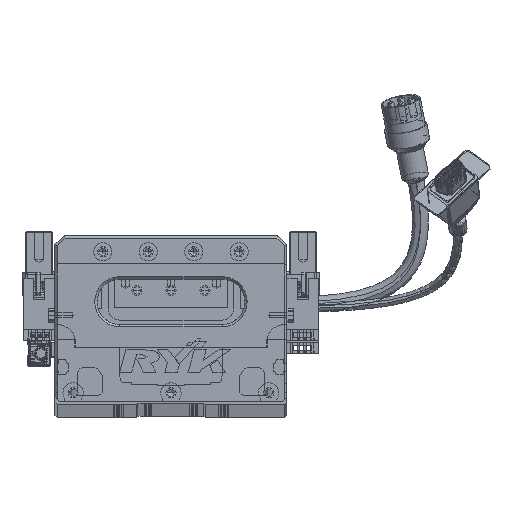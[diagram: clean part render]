
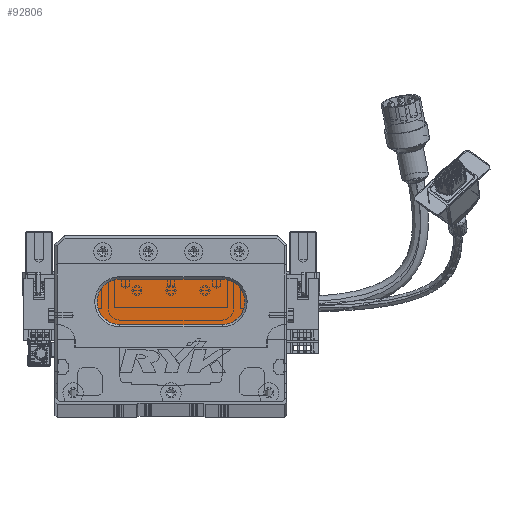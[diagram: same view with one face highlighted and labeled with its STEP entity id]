
A CAD part, top view. The second image highlights one B-rep face of the part: STEP entity #92806.
In plain terms, the highlighted planar face has unit normal (0, 0, 1) as drawn and (0, 0, -1) by its records, which use the part's own axes.
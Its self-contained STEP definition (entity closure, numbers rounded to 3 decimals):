
#870 = EDGE_CURVE ( 'NONE', #12849, #24966, #27491, .T. ) ;
#1148 = ORIENTED_EDGE ( 'NONE', *, *, #48535, .T. ) ;
#5061 = CIRCLE ( 'NONE', #24532, 10. ) ;
#5185 = CARTESIAN_POINT ( 'NONE',  ( 73.5, 54., 13. ) ) ;
#8632 = DIRECTION ( 'NONE',  ( 0., 0., -1. ) ) ;
#9249 = CARTESIAN_POINT ( 'NONE',  ( 73.5, 44., 13. ) ) ;
#9358 = ORIENTED_EDGE ( 'NONE', *, *, #18719, .T. ) ;
#9816 = LINE ( 'NONE', #83680, #82687 ) ;
#11534 = DIRECTION ( 'NONE',  ( 0., 0., -1. ) ) ;
#12849 = VERTEX_POINT ( 'NONE', #62135 ) ;
#13891 = CARTESIAN_POINT ( 'NONE',  ( 73.5, 54., 13. ) ) ;
#15362 = PLANE ( 'NONE',  #16156 ) ;
#15558 = FACE_OUTER_BOUND ( 'NONE', #66288, .T. ) ;
#16156 = AXIS2_PLACEMENT_3D ( 'NONE', #9249, #38278, #59943 ) ;
#17231 = VERTEX_POINT ( 'NONE', #20407 ) ;
#18719 = EDGE_CURVE ( 'NONE', #17231, #89936, #5061, .T. ) ;
#18867 = DIRECTION ( 'NONE',  ( -1., 0., 0. ) ) ;
#20407 = CARTESIAN_POINT ( 'NONE',  ( 28.5, 34., 13. ) ) ;
#22767 = CARTESIAN_POINT ( 'NONE',  ( 18.5, 44., 13. ) ) ;
#23958 = AXIS2_PLACEMENT_3D ( 'NONE', #33223, #11534, #18867 ) ;
#24532 = AXIS2_PLACEMENT_3D ( 'NONE', #38186, #89051, #60164 ) ;
#24966 = VERTEX_POINT ( 'NONE', #13891 ) ;
#27491 = LINE ( 'NONE', #5185, #73031 ) ;
#33223 = CARTESIAN_POINT ( 'NONE',  ( 73.5, 44., 13. ) ) ;
#34404 = EDGE_CURVE ( 'NONE', #89936, #12849, #44026, .T. ) ;
#38186 = CARTESIAN_POINT ( 'NONE',  ( 28.5, 44., 13. ) ) ;
#38278 = DIRECTION ( 'NONE',  ( 0., 0., -1. ) ) ;
#40428 = CIRCLE ( 'NONE', #23958, 10. ) ;
#41412 = EDGE_CURVE ( 'NONE', #82454, #17231, #9816, .T. ) ;
#44026 = CIRCLE ( 'NONE', #78620, 10. ) ;
#44027 = DIRECTION ( 'NONE',  ( -1., 0., 0. ) ) ;
#44982 = ORIENTED_EDGE ( 'NONE', *, *, #41412, .T. ) ;
#48535 = EDGE_CURVE ( 'NONE', #24966, #82454, #40428, .T. ) ;
#56172 = DIRECTION ( 'NONE',  ( 1., 0., 0. ) ) ;
#59943 = DIRECTION ( 'NONE',  ( -1., 0., 0. ) ) ;
#60081 = ORIENTED_EDGE ( 'NONE', *, *, #870, .T. ) ;
#60164 = DIRECTION ( 'NONE',  ( -1., 0., 0. ) ) ;
#62135 = CARTESIAN_POINT ( 'NONE',  ( 28.5, 54., 13. ) ) ;
#63687 = ORIENTED_EDGE ( 'NONE', *, *, #34404, .T. ) ;
#66288 = EDGE_LOOP ( 'NONE', ( #1148, #44982, #9358, #63687, #60081 ) ) ;
#66575 = CARTESIAN_POINT ( 'NONE',  ( 28.5, 44., 13. ) ) ;
#71360 = CARTESIAN_POINT ( 'NONE',  ( 73.5, 34., 13. ) ) ;
#73031 = VECTOR ( 'NONE', #56172, 1000. ) ;
#75728 = DIRECTION ( 'NONE',  ( -1., 0., 0. ) ) ;
#78620 = AXIS2_PLACEMENT_3D ( 'NONE', #66575, #8632, #44027 ) ;
#82454 = VERTEX_POINT ( 'NONE', #71360 ) ;
#82687 = VECTOR ( 'NONE', #75728, 1000. ) ;
#83680 = CARTESIAN_POINT ( 'NONE',  ( 73.5, 34., 13. ) ) ;
#89051 = DIRECTION ( 'NONE',  ( 0., 0., -1. ) ) ;
#89936 = VERTEX_POINT ( 'NONE', #22767 ) ;
#92806 = ADVANCED_FACE ( 'NONE', ( #15558 ), #15362, .T. ) ;
